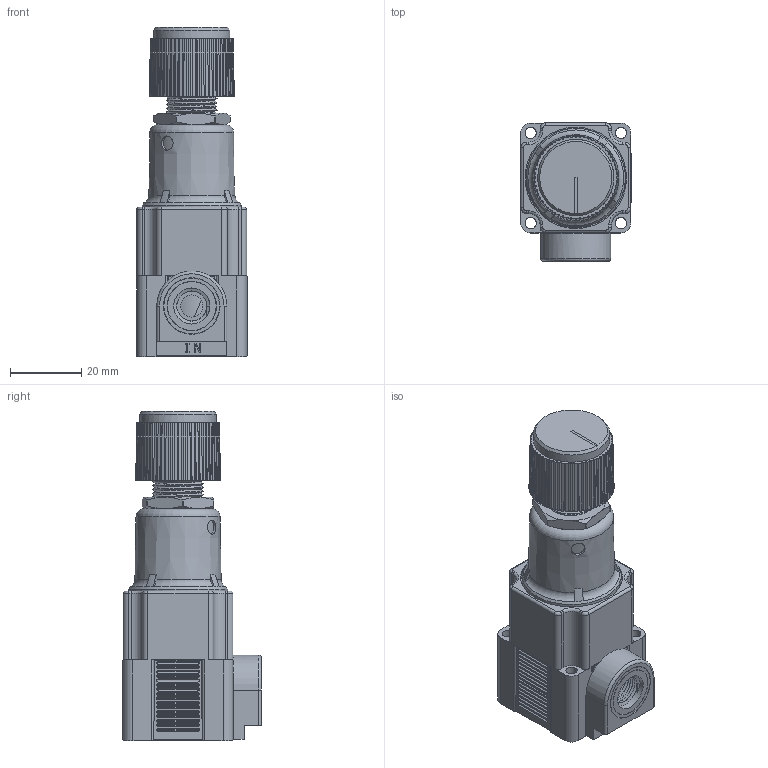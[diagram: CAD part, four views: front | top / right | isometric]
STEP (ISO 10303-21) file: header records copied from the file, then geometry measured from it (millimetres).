
FILE_DESCRIPTION(/* description */ (''),/* implementation_level */ '2;1');
FILE_NAME(/* name */ 'K:\Normteile INVENTOR\Air-Logic\Regulators\NR4000\NR 4___ 1 1''8-27 NPT Threads In.igs.ipt.stp',/* time_stamp */ '2020-05-27T10:50:08+02:00',/* author */ ('Paul'),/* organization */ (''),/* preprocessor_version */ 'ST-DEVELOPER v18',/* originating_system */ 'Autodesk Inventor 2020',/* authorisation */ '');
FILE_SCHEMA (('AUTOMOTIVE_DESIGN { 1 0 10303 214 3 1 1 }'));
Length unit declared in the file: inch
Products named in the file (1): NR 4___ 1 1'8-27 NPT Threads In.igs
Bounding box: 31.06 x 39.06 x 92.65 mm (x, y, z)
Volume: 57097.1 mm3; surface area: 19660.9 mm2
Topology: 1 solids, 1 shells, 958 faces, 2465 edges, 1572 vertices
Faces by surface type: plane 474, cylinder 355, cone 82, bspline 25, torus 22
Full cylindrical faces by diameter (mm): 3.175 x4, 3.988 x1, 4.039 x1, 4.064 x1, 6.248 x1, 8.458 x6, 9.169 x1, 9.652 x1, 10.163 x1, 12.903 x1, 13.716 x1, 13.872 x1, 14.288 x2, 15.707 x1, 15.913 x1, 19.406 x1, 21.476 x1, 26.264 x1, 27.94 x1, 27.991 x1, 28.575 x1
Entity records: 40618 total; most frequent: CARTESIAN_POINT 15819, DIRECTION 5155, ORIENTED_EDGE 4930, EDGE_CURVE 2465, AXIS2_PLACEMENT_3D 1966, VERTEX_POINT 1572, LINE 1223, VECTOR 1223
